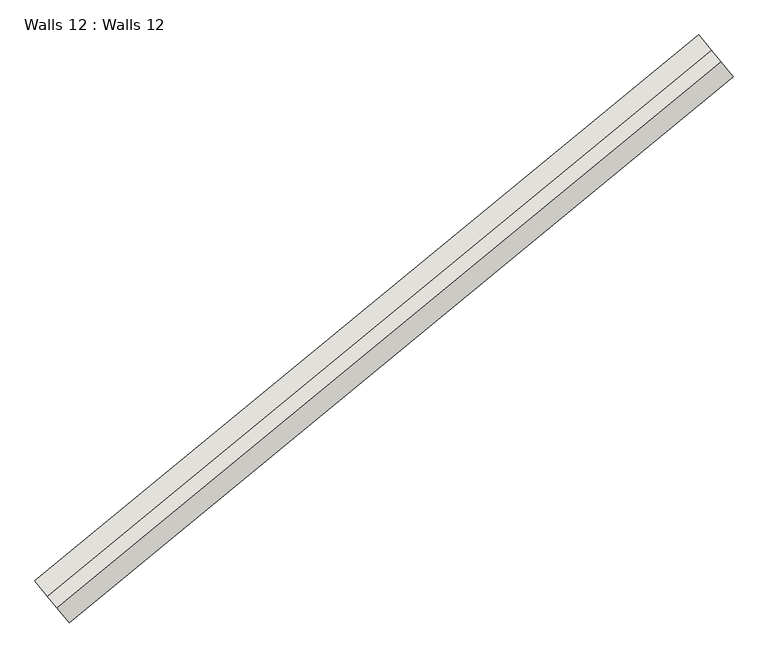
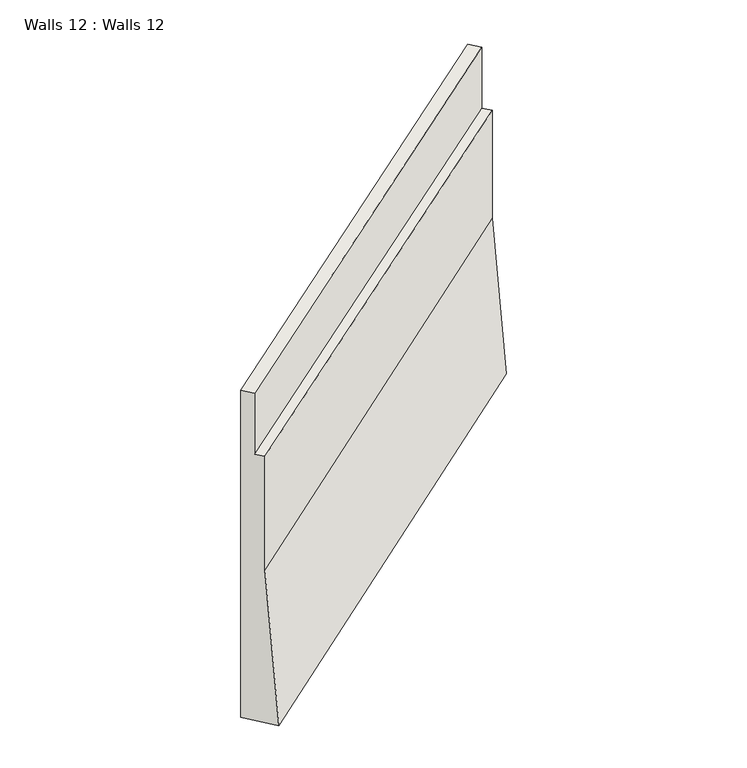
"""IFC4 building model written with IfcOpenShell, lengths in millimetres: wall geometry, Walls 12 : Walls 12."""

from ifc_helpers import new_model, si_unit, origin, place, context, project, spatial, faceted_brep, source, transform, mapped, element, save


def walls_12_walls_12_7857f565(model_context):
    return source(origin(), model_context, "Body", "Brep", [
        faceted_brep([(-271983.7003337, -428556.3949238, 634980.0), (-272110.7675546, -428401.9477763, 637480.0), (-272110.7675546, -428401.9477763, 639350.0), (-272206.0679703, -428286.1124157, 639350.0), (-272206.0679703, -428286.1124157, 640350.0), (-272333.1351912, -428131.6652682, 640350.0), (-272333.1351912, -428131.6652682, 634980.0), (-265265.2494185, -423028.9708146, 635050.0), (-265614.684276, -422604.241159, 635050.0), (-265614.684276, -422604.241159, 640320.0), (-265487.6170551, -422758.6883065, 640320.0), (-265487.6170551, -422758.6883065, 639320.0), (-265392.3166394, -422874.5236671, 639320.0), (-265392.3166394, -422874.5236671, 637550.0)], [[[0, 1, 2, 3, 4, 5, 6]], [[7, 8, 9, 10, 11, 12, 13]], [[7, 13, 1, 0]], [[13, 12, 2, 1]], [[12, 11, 3, 2]], [[11, 10, 4, 3]], [[10, 9, 5, 4]], [[9, 8, 6, 5]], [[8, 7, 0, 6]]]),
    ])


if __name__ == "__main__":
    model = new_model("IFC4")
    model_context = context("Model", 3, world=origin())
    ifc_project = project(units=[si_unit("LENGTHUNIT", "METRE", prefix="MILLI")], contexts=[model_context])
    site = spatial("IfcSite", under=ifc_project)
    building = spatial("IfcBuilding", under=site)
    placement = place(None, origin())
    walls_12_walls_12_shape = walls_12_walls_12_7857f565(model_context)
    element("IfcWall", 1, ObjectType="Walls 12 : Walls 12", at=placement, inside=building, context=model_context, shape_type="MappedRepresentation", body=[
        mapped(walls_12_walls_12_shape, transform((0.0, 0.0, 0.0), x_axis=(1.0, 0.0, 0.0), y_axis=(0.0, 1.0, 0.0), z_axis=(0.0, 0.0, 1.0))),
    ])
    save(model, "model.ifc")
